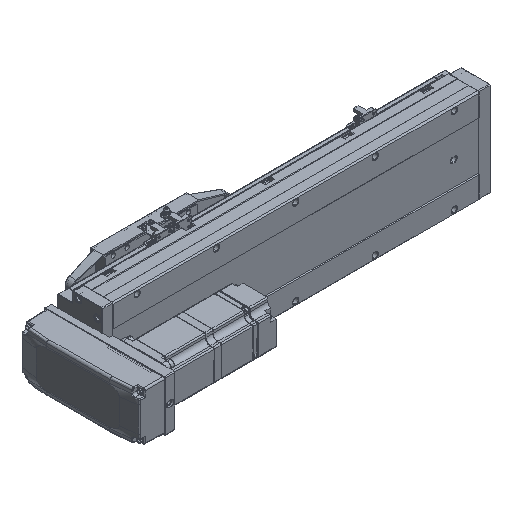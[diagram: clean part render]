
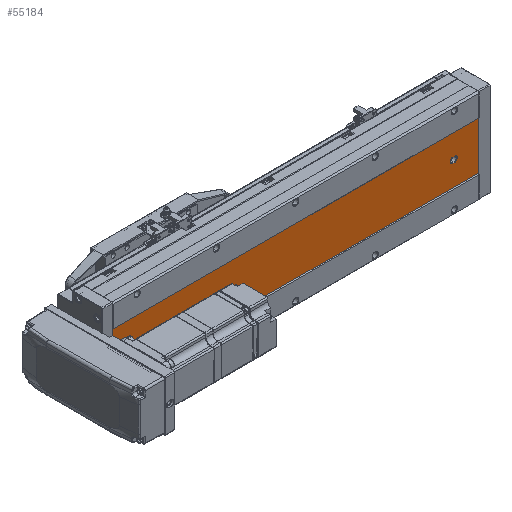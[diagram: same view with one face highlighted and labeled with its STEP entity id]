
A CAD part, isometric view. The second image highlights one B-rep face of the part: STEP entity #55184.
In plain terms, the highlighted planar face has unit normal (0, -1, 0).
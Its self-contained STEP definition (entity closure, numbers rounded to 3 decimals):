
#306 = CARTESIAN_POINT ( 'NONE',  ( -39.892, -52.848, 30. ) ) ;
#499 = CARTESIAN_POINT ( 'NONE',  ( -39.892, -52.848, 427.5 ) ) ;
#570 = CARTESIAN_POINT ( 'NONE',  ( -43.392, -52.848, 461. ) ) ;
#1073 = CARTESIAN_POINT ( 'NONE',  ( -43.392, -52.848, 30. ) ) ;
#1145 = AXIS2_PLACEMENT_3D ( 'NONE', #6692, #57365, #23668 ) ;
#1463 = CARTESIAN_POINT ( 'NONE',  ( -69.892, -52.848, 0. ) ) ;
#2337 = EDGE_CURVE ( 'NONE', #53268, #42306, #72771, .T. ) ;
#2883 = AXIS2_PLACEMENT_3D ( 'NONE', #306, #28318, #28793 ) ;
#2890 = VERTEX_POINT ( 'NONE', #6607 ) ;
#3787 = ORIENTED_EDGE ( 'NONE', *, *, #38724, .T. ) ;
#4856 = CARTESIAN_POINT ( 'NONE',  ( -39.892, -52.848, 26.5 ) ) ;
#5049 = FACE_BOUND ( 'NONE', #25948, .T. ) ;
#5088 = DIRECTION ( 'NONE',  ( 1., 0., 0. ) ) ;
#6607 = CARTESIAN_POINT ( 'NONE',  ( -9.892, -52.848, 0. ) ) ;
#6692 = CARTESIAN_POINT ( 'NONE',  ( -39.892, -52.848, 30. ) ) ;
#6759 = VERTEX_POINT ( 'NONE', #1073 ) ;
#7233 = EDGE_LOOP ( 'NONE', ( #10315, #60224 ) ) ;
#7555 = DIRECTION ( 'NONE',  ( 1., 0., 0. ) ) ;
#8008 = EDGE_CURVE ( 'NONE', #56156, #50051, #57660, .T. ) ;
#8251 = ORIENTED_EDGE ( 'NONE', *, *, #20961, .T. ) ;
#8518 = VERTEX_POINT ( 'NONE', #18896 ) ;
#9467 = DIRECTION ( 'NONE',  ( 0., 0., 1. ) ) ;
#10170 = CARTESIAN_POINT ( 'NONE',  ( -36.392, -52.848, 461. ) ) ;
#10315 = ORIENTED_EDGE ( 'NONE', *, *, #69999, .T. ) ;
#14322 = DIRECTION ( 'NONE',  ( 0., 1., 0. ) ) ;
#15590 = FACE_BOUND ( 'NONE', #7233, .T. ) ;
#15716 = VECTOR ( 'NONE', #42941, 1000. ) ;
#16935 = EDGE_LOOP ( 'NONE', ( #8251, #46872, #67530, #45727, #20090 ) ) ;
#18896 = CARTESIAN_POINT ( 'NONE',  ( -9.892, -52.848, 461. ) ) ;
#19021 = CARTESIAN_POINT ( 'NONE',  ( -69.892, -52.848, 461. ) ) ;
#19032 = CARTESIAN_POINT ( 'NONE',  ( -69.892, -52.848, 461. ) ) ;
#20018 = ORIENTED_EDGE ( 'NONE', *, *, #40588, .T. ) ;
#20090 = ORIENTED_EDGE ( 'NONE', *, *, #44682, .T. ) ;
#20414 = CIRCLE ( 'NONE', #33829, 3.5 ) ;
#20670 = AXIS2_PLACEMENT_3D ( 'NONE', #69472, #69982, #30126 ) ;
#20961 = EDGE_CURVE ( 'NONE', #64392, #51595, #64065, .T. ) ;
#23668 = DIRECTION ( 'NONE',  ( 0., 0., 1. ) ) ;
#25023 = EDGE_CURVE ( 'NONE', #32689, #2890, #72378, .T. ) ;
#25488 = AXIS2_PLACEMENT_3D ( 'NONE', #29852, #52498, #36020 ) ;
#25846 = EDGE_CURVE ( 'NONE', #42306, #6759, #36089, .T. ) ;
#25948 = EDGE_LOOP ( 'NONE', ( #20018, #36436 ) ) ;
#26664 = EDGE_CURVE ( 'NONE', #51595, #53268, #64167, .T. ) ;
#26709 = LINE ( 'NONE', #55798, #68886 ) ;
#28318 = DIRECTION ( 'NONE',  ( 0., 1., 0. ) ) ;
#28329 = VECTOR ( 'NONE', #5088, 1000. ) ;
#28793 = DIRECTION ( 'NONE',  ( 0., 0., 1. ) ) ;
#28821 = DIRECTION ( 'NONE',  ( 0., 0., 1. ) ) ;
#29852 = CARTESIAN_POINT ( 'NONE',  ( -39.892, -52.848, 331. ) ) ;
#29942 = AXIS2_PLACEMENT_3D ( 'NONE', #50428, #45252, #39355 ) ;
#30126 = DIRECTION ( 'NONE',  ( 0., 0., 1. ) ) ;
#30362 = DIRECTION ( 'NONE',  ( 0., 0., 1. ) ) ;
#32071 = CARTESIAN_POINT ( 'NONE',  ( -39.892, -52.848, 331. ) ) ;
#32336 = CARTESIAN_POINT ( 'NONE',  ( -69.892, -52.848, 0. ) ) ;
#32550 = DIRECTION ( 'NONE',  ( 0., 1., 0. ) ) ;
#32689 = VERTEX_POINT ( 'NONE', #32336 ) ;
#32868 = DIRECTION ( 'NONE',  ( 0., 0., -1. ) ) ;
#33502 = DIRECTION ( 'NONE',  ( 0., 0., -1. ) ) ;
#33829 = AXIS2_PLACEMENT_3D ( 'NONE', #32071, #32550, #9467 ) ;
#33988 = EDGE_CURVE ( 'NONE', #56686, #8518, #42392, .T. ) ;
#35788 = LINE ( 'NONE', #570, #41061 ) ;
#36020 = DIRECTION ( 'NONE',  ( 0., 0., 1. ) ) ;
#36089 = CIRCLE ( 'NONE', #2883, 3.5 ) ;
#36295 = DIRECTION ( 'NONE',  ( 0., 1., 0. ) ) ;
#36436 = ORIENTED_EDGE ( 'NONE', *, *, #58643, .T. ) ;
#38306 = VERTEX_POINT ( 'NONE', #499 ) ;
#38501 = ORIENTED_EDGE ( 'NONE', *, *, #33988, .F. ) ;
#38724 = EDGE_CURVE ( 'NONE', #56686, #32689, #26709, .T. ) ;
#39355 = DIRECTION ( 'NONE',  ( 0., 0., 1. ) ) ;
#39607 = CARTESIAN_POINT ( 'NONE',  ( -39.892, -52.848, 327.5 ) ) ;
#40588 = EDGE_CURVE ( 'NONE', #38306, #53645, #53710, .T. ) ;
#41061 = VECTOR ( 'NONE', #28821, 1000. ) ;
#41305 = CARTESIAN_POINT ( 'NONE',  ( -39.892, -52.848, 334.5 ) ) ;
#42306 = VERTEX_POINT ( 'NONE', #4856 ) ;
#42392 = LINE ( 'NONE', #67279, #28329 ) ;
#42941 = DIRECTION ( 'NONE',  ( 0., 0., -1. ) ) ;
#44682 = EDGE_CURVE ( 'NONE', #6759, #64392, #35788, .T. ) ;
#45252 = DIRECTION ( 'NONE',  ( 0., 1., 0. ) ) ;
#45727 = ORIENTED_EDGE ( 'NONE', *, *, #25846, .T. ) ;
#46435 = AXIS2_PLACEMENT_3D ( 'NONE', #19021, #36295, #30362 ) ;
#46872 = ORIENTED_EDGE ( 'NONE', *, *, #26664, .T. ) ;
#47284 = CARTESIAN_POINT ( 'NONE',  ( -36.392, -52.848, 30. ) ) ;
#48111 = CARTESIAN_POINT ( 'NONE',  ( -9.892, -52.848, 461. ) ) ;
#48129 = FACE_BOUND ( 'NONE', #16935, .T. ) ;
#49648 = CARTESIAN_POINT ( 'NONE',  ( -43.392, -52.848, 32. ) ) ;
#50051 = VERTEX_POINT ( 'NONE', #39607 ) ;
#50428 = CARTESIAN_POINT ( 'NONE',  ( -39.892, -52.848, 431. ) ) ;
#51595 = VERTEX_POINT ( 'NONE', #61021 ) ;
#52101 = VECTOR ( 'NONE', #7555, 1000. ) ;
#52498 = DIRECTION ( 'NONE',  ( 0., 1., 0. ) ) ;
#52796 = PLANE ( 'NONE',  #46435 ) ;
#53268 = VERTEX_POINT ( 'NONE', #47284 ) ;
#53645 = VERTEX_POINT ( 'NONE', #55903 ) ;
#53710 = CIRCLE ( 'NONE', #29942, 3.5 ) ;
#54458 = ORIENTED_EDGE ( 'NONE', *, *, #25023, .T. ) ;
#55184 = ADVANCED_FACE ( 'NONE', ( #48129, #15590, #5049, #61314 ), #52796, .F. ) ;
#55798 = CARTESIAN_POINT ( 'NONE',  ( -69.892, -52.848, 461. ) ) ;
#55903 = CARTESIAN_POINT ( 'NONE',  ( -39.892, -52.848, 434.5 ) ) ;
#56156 = VERTEX_POINT ( 'NONE', #41305 ) ;
#56686 = VERTEX_POINT ( 'NONE', #19032 ) ;
#57365 = DIRECTION ( 'NONE',  ( 0., 1., 0. ) ) ;
#57660 = CIRCLE ( 'NONE', #25488, 3.5 ) ;
#58121 = CARTESIAN_POINT ( 'NONE',  ( -39.892, -52.848, 32. ) ) ;
#58643 = EDGE_CURVE ( 'NONE', #53645, #38306, #71460, .T. ) ;
#58832 = DIRECTION ( 'NONE',  ( 0., 0., 1. ) ) ;
#58903 = VECTOR ( 'NONE', #33502, 1000. ) ;
#60224 = ORIENTED_EDGE ( 'NONE', *, *, #8008, .T. ) ;
#61021 = CARTESIAN_POINT ( 'NONE',  ( -36.392, -52.848, 32. ) ) ;
#61314 = FACE_OUTER_BOUND ( 'NONE', #62334, .T. ) ;
#62334 = EDGE_LOOP ( 'NONE', ( #54458, #71292, #38501, #3787 ) ) ;
#63231 = EDGE_CURVE ( 'NONE', #8518, #2890, #66754, .T. ) ;
#64065 = CIRCLE ( 'NONE', #69401, 3.5 ) ;
#64167 = LINE ( 'NONE', #10170, #58903 ) ;
#64392 = VERTEX_POINT ( 'NONE', #49648 ) ;
#66754 = LINE ( 'NONE', #48111, #15716 ) ;
#67279 = CARTESIAN_POINT ( 'NONE',  ( -69.892, -52.848, 461. ) ) ;
#67530 = ORIENTED_EDGE ( 'NONE', *, *, #2337, .T. ) ;
#68886 = VECTOR ( 'NONE', #32868, 1000. ) ;
#69401 = AXIS2_PLACEMENT_3D ( 'NONE', #58121, #14322, #58832 ) ;
#69472 = CARTESIAN_POINT ( 'NONE',  ( -39.892, -52.848, 431. ) ) ;
#69982 = DIRECTION ( 'NONE',  ( 0., 1., 0. ) ) ;
#69999 = EDGE_CURVE ( 'NONE', #50051, #56156, #20414, .T. ) ;
#71292 = ORIENTED_EDGE ( 'NONE', *, *, #63231, .F. ) ;
#71460 = CIRCLE ( 'NONE', #20670, 3.5 ) ;
#72378 = LINE ( 'NONE', #1463, #52101 ) ;
#72771 = CIRCLE ( 'NONE', #1145, 3.5 ) ;
